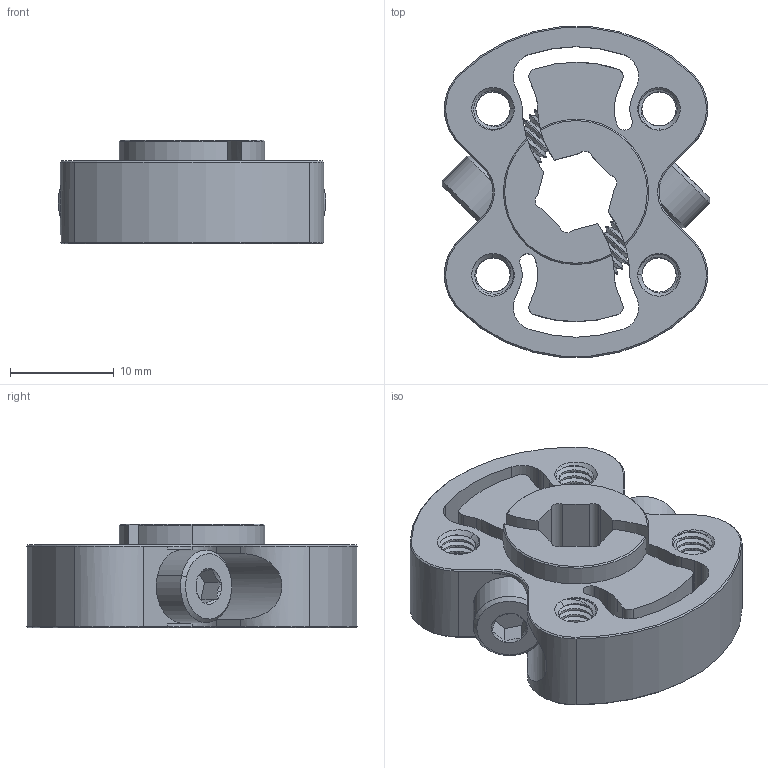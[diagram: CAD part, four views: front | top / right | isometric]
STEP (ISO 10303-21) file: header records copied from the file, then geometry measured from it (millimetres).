
FILE_DESCRIPTION (( 'STEP AP203' ), '1' );
FILE_NAME ('1309-0016-4008 assembly.STEP', '2023-07-26T16:20:22', ( '' ), ( '' ), 'SwSTEP 2.0', 'SolidWorks 2016', '' );
FILE_SCHEMA (( 'CONFIG_CONTROL_DESIGN' ));
Length unit declared in the file: millimetre
Products named in the file (3): 2800-0004-0014_90128A207; 1309-0016-4008 assembly; 1309-0016-4008
Assembly tree (3 placements, depth 2):
  1309-0016-4008 assembly
    1309-0016-4008
    2800-0004-0014_90128A207  x2
Bounding box: 25.8 x 31.88 x 10 mm (x, y, z)
Volume: 4096.3 mm3; surface area: 4801.7 mm2
Topology: 3 solids, 3 shells, 718 faces, 2070 edges, 1358 vertices
Faces by surface type: cylinder 557, cone 67, plane 56, bspline 38
Entity records: 62311 total; most frequent: CARTESIAN_POINT 48550, ORIENTED_EDGE 3550, DIRECTION 2154, EDGE_CURVE 1775, VERTEX_POINT 1167, AXIS2_PLACEMENT_3D 790, EDGE_LOOP 626, ADVANCED_FACE 610
